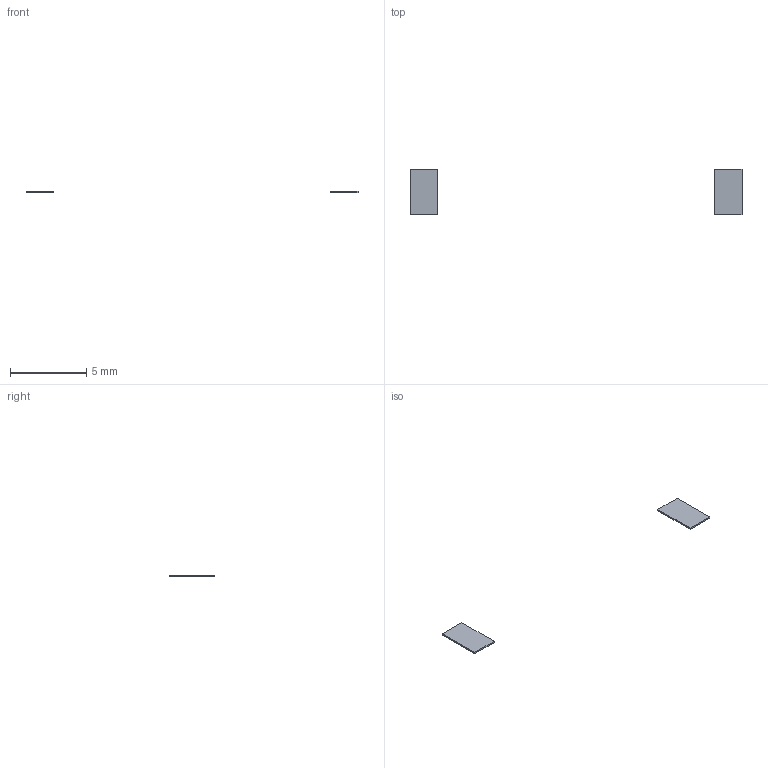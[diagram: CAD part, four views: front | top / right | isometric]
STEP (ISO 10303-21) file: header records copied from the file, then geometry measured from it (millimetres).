
FILE_DESCRIPTION(/* description */ (''),/* implementation_level */ '2;1');
FILE_NAME(/* name */ 'C28_R3_Front_Travel_Stop_Shims_0p10.step',/* time_stamp */ '2026-09-10T17:50:13-07:00',/* author */ (''),/* organization */ (''),/* preprocessor_version */ 'ST-DEVELOPER v20.1',/* originating_system */ 'Autodesk Translation Framework v15.8.0.0',/* authorisation */ '');
FILE_SCHEMA (('AUTOMOTIVE_DESIGN { 1 0 10303 214 3 1 1 }'));
Length unit declared in the file: millimetre
Products named in the file (1): 2026-09-10-17-50-13-603
Bounding box: 21.8 x 3 x 0.1 mm (x, y, z)
Volume: 1.1 mm3; surface area: 23.5 mm2
Topology: 2 solids, 2 shells, 12 faces, 24 edges, 16 vertices
Faces by surface type: plane 12
Entity records: 340 total; most frequent: CARTESIAN_POINT 53, DIRECTION 50, ORIENTED_EDGE 48, LINE 24, VECTOR 24, EDGE_CURVE 24, VERTEX_POINT 16, AXIS2_PLACEMENT_3D 13
